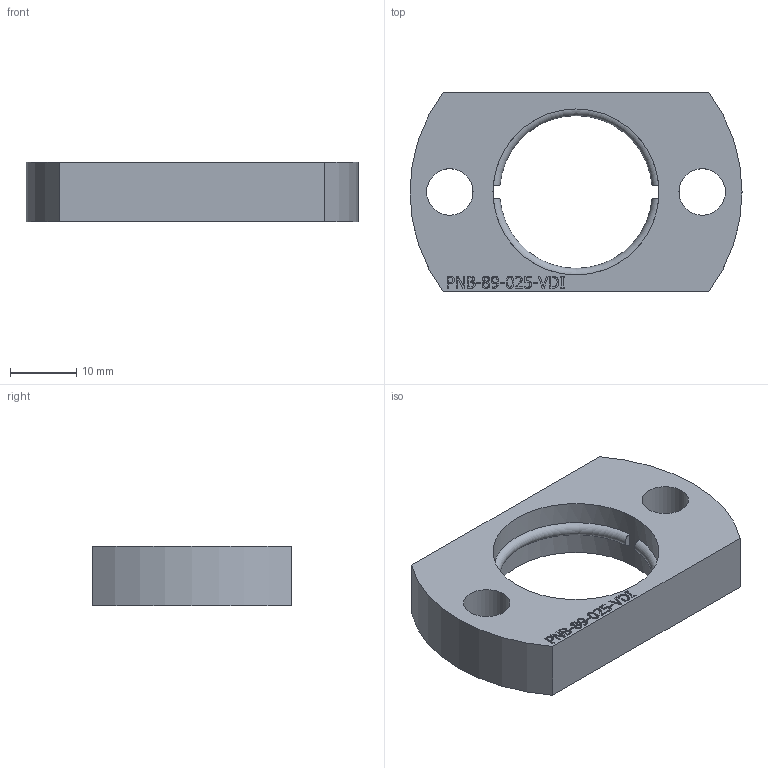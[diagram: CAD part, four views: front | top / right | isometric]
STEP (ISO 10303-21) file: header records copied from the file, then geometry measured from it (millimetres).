
FILE_DESCRIPTION(/* description */ (''),/* implementation_level */ '2;1');
FILE_NAME(/* name */ 'C:\Users\Jefferson\Desktop\Biblioteca Pro Nitro 2024 - Inventor\Flanges\PNB-89-025-VDI\PNB-89-025-VDI.stp',/* time_stamp */ '2025-01-02T09:30:40-03:00',/* author */ ('Jefferson'),/* organization */ (''),/* preprocessor_version */ 'ST-DEVELOPER v19',/* originating_system */ 'Autodesk Inventor 2023',/* authorisation */ '');
FILE_SCHEMA (('AUTOMOTIVE_DESIGN { 1 0 10303 214 3 1 1 }'));
Length unit declared in the file: millimetre
Products named in the file (1): PNB-89-025
Bounding box: 50 x 30 x 9 mm (x, y, z)
Volume: 7640.6 mm3; surface area: 4163.9 mm2
Topology: 1 solids, 1 shells, 223 faces, 591 edges, 394 vertices
Faces by surface type: plane 112, bspline 104, cylinder 5, torus 2
Full cylindrical faces by diameter (mm): 7 x2, 25 x1
Entity records: 7542 total; most frequent: CARTESIAN_POINT 2629, ORIENTED_EDGE 1182, DIRECTION 633, EDGE_CURVE 591, VERTEX_POINT 394, LINE 365, VECTOR 365, EDGE_LOOP 253
